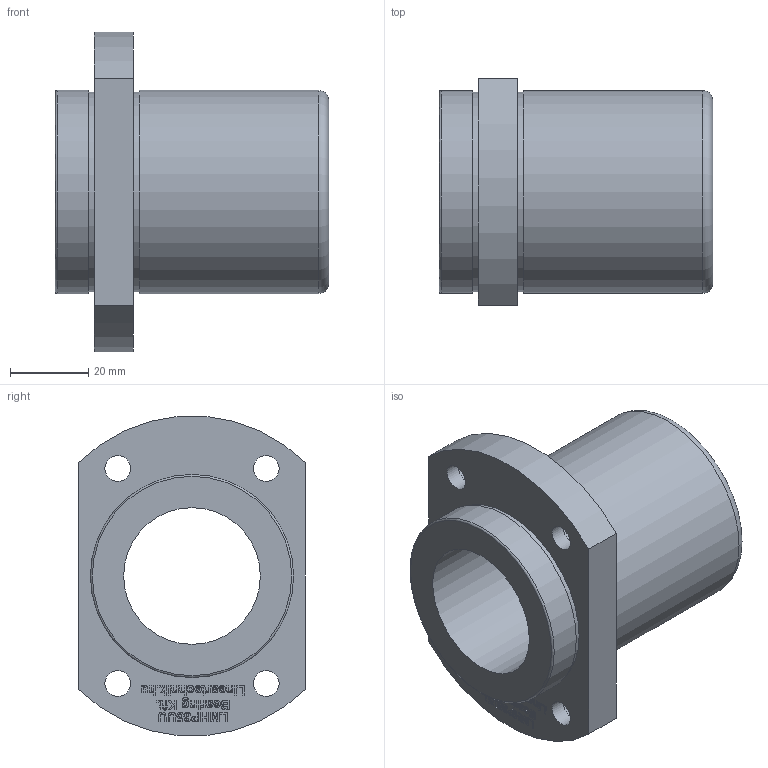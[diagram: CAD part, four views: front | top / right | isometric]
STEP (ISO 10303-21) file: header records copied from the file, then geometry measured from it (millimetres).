
FILE_DESCRIPTION(/* description */ (''),/* implementation_level */ '2;1');
FILE_NAME(/* name */ 'LMHP35UU',/* time_stamp */ '2019-07-09T13:43:20+02:00',/* author */ ('VĂ©gh MĂˇtĂ©'),/* organization */ ('Bearing Kft'),/* preprocessor_version */ 'ST-DEVELOPER v16.7',/* originating_system */ 'DEX',/* authorisation */ $);
FILE_SCHEMA (('AUTOMOTIVE_DESIGN {1 0 10303 214 3 1 1}'));
Length unit declared in the file: millimetre
Products named in the file (1): LMHP35UU
Bounding box: 70 x 58 x 81.69 mm (x, y, z)
Volume: 99958.1 mm3; surface area: 27688.1 mm2
Topology: 1 solids, 1 shells, 343 faces, 856 edges, 570 vertices
Faces by surface type: plane 261, bspline 63, cylinder 17, torus 2
Full cylindrical faces by diameter (mm): 6.6 x4, 11 x4, 35 x1, 51 x2, 52 x2
Entity records: 13284 total; most frequent: CARTESIAN_POINT 5479, ORIENTED_EDGE 1680, DIRECTION 1312, EDGE_CURVE 840, LINE 678, VECTOR 678, VERTEX_POINT 570, EDGE_LOOP 424
